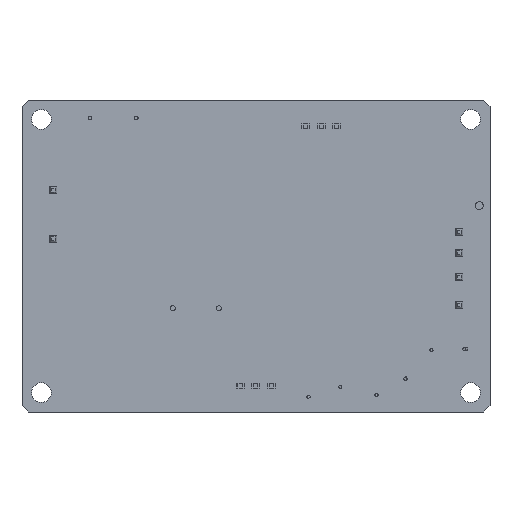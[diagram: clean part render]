
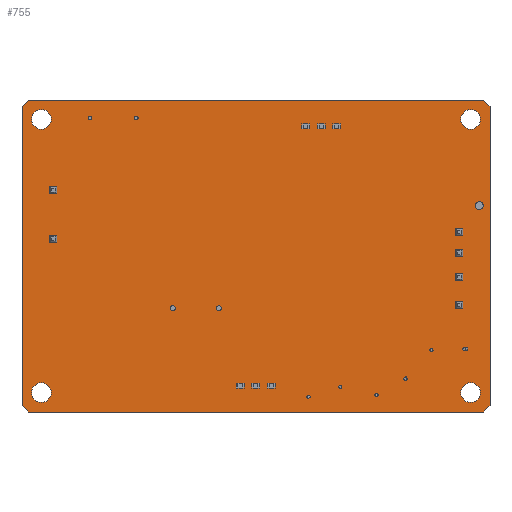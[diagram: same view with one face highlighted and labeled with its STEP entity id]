
A CAD part, front view. The second image highlights one B-rep face of the part: STEP entity #755.
In plain terms, the highlighted planar face has unit normal (0, -1, 0).
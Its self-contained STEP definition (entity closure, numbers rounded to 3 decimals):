
#198=DIRECTION('',(-0.707,0.,-0.707));
#199=VECTOR('',#198,1.414);
#200=CARTESIAN_POINT('',(38.1,-1.2,-24.4));
#201=LINE('',#200,#199);
#202=DIRECTION('',(-1.,0.,0.));
#203=VECTOR('',#202,74.2);
#204=CARTESIAN_POINT('',(37.1,-1.2,-25.4));
#205=LINE('',#204,#203);
#206=DIRECTION('',(-0.707,0.,0.707));
#207=VECTOR('',#206,1.414);
#208=CARTESIAN_POINT('',(-37.1,-1.2,-25.4));
#209=LINE('',#208,#207);
#210=DIRECTION('',(0.,0.,1.));
#211=VECTOR('',#210,48.8);
#212=CARTESIAN_POINT('',(-38.1,-1.2,-24.4));
#213=LINE('',#212,#211);
#214=DIRECTION('',(0.707,0.,0.707));
#215=VECTOR('',#214,1.414);
#216=CARTESIAN_POINT('',(-38.1,-1.2,24.4));
#217=LINE('',#216,#215);
#218=DIRECTION('',(1.,0.,0.));
#219=VECTOR('',#218,74.2);
#220=CARTESIAN_POINT('',(-37.1,-1.2,25.4));
#221=LINE('',#220,#219);
#222=DIRECTION('',(0.707,0.,-0.707));
#223=VECTOR('',#222,1.414);
#224=CARTESIAN_POINT('',(37.1,-1.2,25.4));
#225=LINE('',#224,#223);
#226=DIRECTION('',(0.,0.,-1.));
#227=VECTOR('',#226,48.8);
#228=CARTESIAN_POINT('',(38.1,-1.2,24.4));
#229=LINE('',#228,#227);
#230=CARTESIAN_POINT('',(34.95,-1.2,-22.25));
#231=DIRECTION('',(0.,1.,0.));
#232=DIRECTION('',(1.,0.,0.));
#233=AXIS2_PLACEMENT_3D('',#230,#231,#232);
#235=CARTESIAN_POINT('',(34.95,-1.2,-22.25));
#236=DIRECTION('',(0.,1.,0.));
#237=DIRECTION('',(-1.,0.,0.));
#238=AXIS2_PLACEMENT_3D('',#235,#236,#237);
#240=CARTESIAN_POINT('',(34.95,-1.2,22.25));
#241=DIRECTION('',(0.,1.,0.));
#242=DIRECTION('',(1.,0.,0.));
#243=AXIS2_PLACEMENT_3D('',#240,#241,#242);
#245=CARTESIAN_POINT('',(34.95,-1.2,22.25));
#246=DIRECTION('',(0.,1.,0.));
#247=DIRECTION('',(-1.,0.,0.));
#248=AXIS2_PLACEMENT_3D('',#245,#246,#247);
#250=CARTESIAN_POINT('',(-34.95,-1.2,22.25));
#251=DIRECTION('',(0.,1.,0.));
#252=DIRECTION('',(1.,0.,0.));
#253=AXIS2_PLACEMENT_3D('',#250,#251,#252);
#255=CARTESIAN_POINT('',(-34.95,-1.2,22.25));
#256=DIRECTION('',(0.,1.,0.));
#257=DIRECTION('',(-1.,0.,0.));
#258=AXIS2_PLACEMENT_3D('',#255,#256,#257);
#260=CARTESIAN_POINT('',(-34.95,-1.2,-22.25));
#261=DIRECTION('',(0.,1.,0.));
#262=DIRECTION('',(1.,0.,0.));
#263=AXIS2_PLACEMENT_3D('',#260,#261,#262);
#265=CARTESIAN_POINT('',(-34.95,-1.2,-22.25));
#266=DIRECTION('',(0.,1.,0.));
#267=DIRECTION('',(-1.,0.,0.));
#268=AXIS2_PLACEMENT_3D('',#265,#266,#267);
#428=CARTESIAN_POINT('',(38.1,-1.2,-24.4));
#429=CARTESIAN_POINT('',(37.1,-1.2,-25.4));
#430=VERTEX_POINT('',#428);
#431=VERTEX_POINT('',#429);
#432=CARTESIAN_POINT('',(-37.1,-1.2,-25.4));
#433=VERTEX_POINT('',#432);
#434=CARTESIAN_POINT('',(-38.1,-1.2,-24.4));
#435=VERTEX_POINT('',#434);
#436=CARTESIAN_POINT('',(-38.1,-1.2,24.4));
#437=VERTEX_POINT('',#436);
#438=CARTESIAN_POINT('',(-37.1,-1.2,25.4));
#439=VERTEX_POINT('',#438);
#440=CARTESIAN_POINT('',(37.1,-1.2,25.4));
#441=VERTEX_POINT('',#440);
#442=CARTESIAN_POINT('',(38.1,-1.2,24.4));
#443=VERTEX_POINT('',#442);
#512=CARTESIAN_POINT('',(36.55,-1.2,-22.25));
#513=CARTESIAN_POINT('',(33.35,-1.2,-22.25));
#514=VERTEX_POINT('',#512);
#515=VERTEX_POINT('',#513);
#516=CARTESIAN_POINT('',(36.55,-1.2,22.25));
#517=CARTESIAN_POINT('',(33.35,-1.2,22.25));
#518=VERTEX_POINT('',#516);
#519=VERTEX_POINT('',#517);
#520=CARTESIAN_POINT('',(-33.35,-1.2,22.25));
#521=CARTESIAN_POINT('',(-36.55,-1.2,22.25));
#522=VERTEX_POINT('',#520);
#523=VERTEX_POINT('',#521);
#524=CARTESIAN_POINT('',(-33.35,-1.2,-22.25));
#525=CARTESIAN_POINT('',(-36.55,-1.2,-22.25));
#526=VERTEX_POINT('',#524);
#527=VERTEX_POINT('',#525);
#716=CARTESIAN_POINT('',(0.,-1.2,0.));
#717=DIRECTION('',(0.,1.,0.));
#718=DIRECTION('',(1.,0.,0.));
#719=AXIS2_PLACEMENT_3D('',#716,#717,#718);
#720=PLANE('',#719);
#721=ORIENTED_EDGE('',*,*,#612,.T.);
#722=ORIENTED_EDGE('',*,*,#627,.T.);
#723=ORIENTED_EDGE('',*,*,#641,.T.);
#724=ORIENTED_EDGE('',*,*,#655,.T.);
#725=ORIENTED_EDGE('',*,*,#669,.T.);
#726=ORIENTED_EDGE('',*,*,#683,.T.);
#727=ORIENTED_EDGE('',*,*,#697,.T.);
#728=ORIENTED_EDGE('',*,*,#710,.T.);
#729=EDGE_LOOP('',(#721,#722,#723,#724,#725,#726,#727,#728));
#730=FACE_OUTER_BOUND('',#729,.F.);
#732=ORIENTED_EDGE('',*,*,#731,.F.);
#734=ORIENTED_EDGE('',*,*,#733,.F.);
#735=EDGE_LOOP('',(#732,#734));
#736=FACE_BOUND('',#735,.F.);
#738=ORIENTED_EDGE('',*,*,#737,.F.);
#740=ORIENTED_EDGE('',*,*,#739,.F.);
#741=EDGE_LOOP('',(#738,#740));
#742=FACE_BOUND('',#741,.F.);
#744=ORIENTED_EDGE('',*,*,#743,.F.);
#746=ORIENTED_EDGE('',*,*,#745,.F.);
#747=EDGE_LOOP('',(#744,#746));
#748=FACE_BOUND('',#747,.F.);
#750=ORIENTED_EDGE('',*,*,#749,.F.);
#752=ORIENTED_EDGE('',*,*,#751,.F.);
#753=EDGE_LOOP('',(#750,#752));
#754=FACE_BOUND('',#753,.F.);
#234=CIRCLE('',#233,1.6);
#239=CIRCLE('',#238,1.6);
#244=CIRCLE('',#243,1.6);
#249=CIRCLE('',#248,1.6);
#254=CIRCLE('',#253,1.6);
#259=CIRCLE('',#258,1.6);
#264=CIRCLE('',#263,1.6);
#269=CIRCLE('',#268,1.6);
#612=EDGE_CURVE('',#430,#431,#201,.T.);
#627=EDGE_CURVE('',#431,#433,#205,.T.);
#641=EDGE_CURVE('',#433,#435,#209,.T.);
#655=EDGE_CURVE('',#435,#437,#213,.T.);
#669=EDGE_CURVE('',#437,#439,#217,.T.);
#683=EDGE_CURVE('',#439,#441,#221,.T.);
#697=EDGE_CURVE('',#441,#443,#225,.T.);
#710=EDGE_CURVE('',#443,#430,#229,.T.);
#731=EDGE_CURVE('',#514,#515,#234,.T.);
#733=EDGE_CURVE('',#515,#514,#239,.T.);
#737=EDGE_CURVE('',#518,#519,#244,.T.);
#739=EDGE_CURVE('',#519,#518,#249,.T.);
#743=EDGE_CURVE('',#522,#523,#254,.T.);
#745=EDGE_CURVE('',#523,#522,#259,.T.);
#749=EDGE_CURVE('',#526,#527,#264,.T.);
#751=EDGE_CURVE('',#527,#526,#269,.T.);
#755=ADVANCED_FACE('',(#730,#736,#742,#748,#754),#720,.F.);
